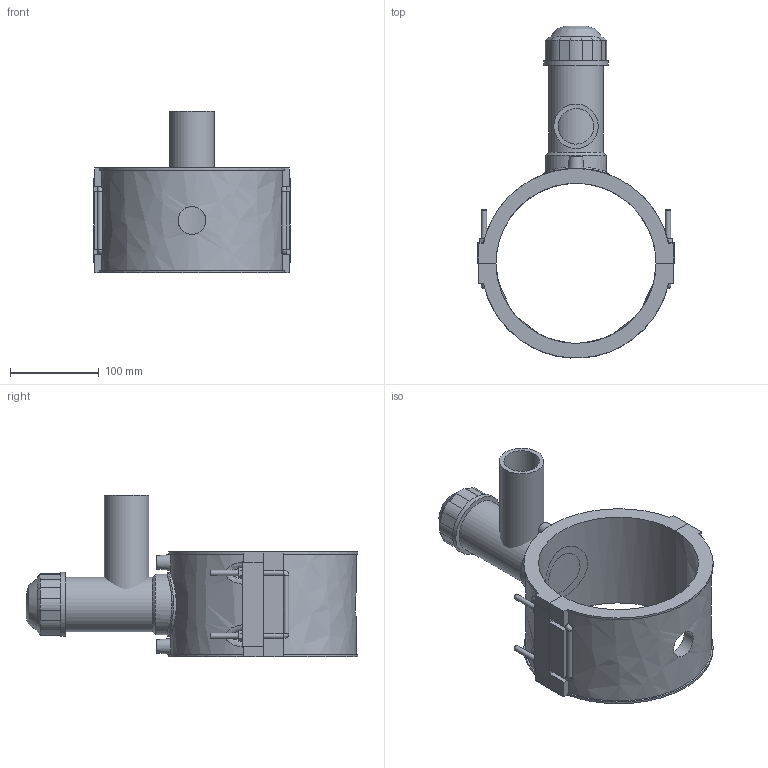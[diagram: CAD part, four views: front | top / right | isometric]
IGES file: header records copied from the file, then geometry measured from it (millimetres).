
Global section: file name: 4963P4180050; native system: Autodesk Inventor 2019; preprocessor: unknown; author: KIM; date: 20220317.113111; units: millimetre
Bounding box: 221 x 373.3 x 182 mm (x, y, z)
Volume: 1507604 mm3; surface area: 291148.5 mm2
Topology: 3 solids, 5 shells, 193 faces, 492 edges, 316 vertices
Faces by surface type: bspline 193
